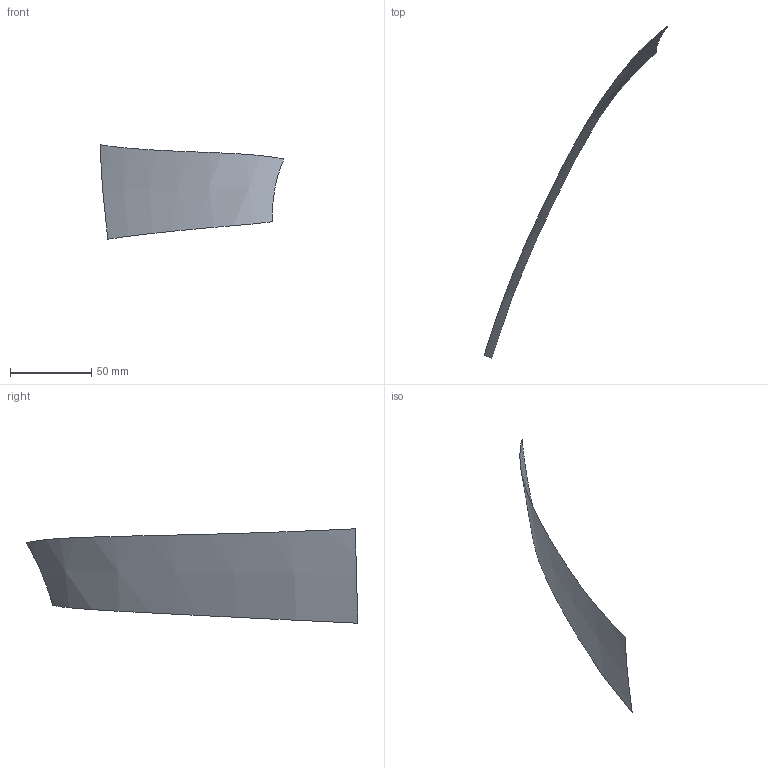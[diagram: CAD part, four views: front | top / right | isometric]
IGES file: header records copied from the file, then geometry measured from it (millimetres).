
Start section: START RECORD GO HERE
Global section: file name: s9.igs; native system: IBM CATIA IGES - CATIA SOLUTIONS V4RELEASE 1.9 REFRESH 01; preprocessor: CATIA SOLUTIONS V4RELEASE 1.9 REFRESH 01; author: cky; date: 990510.133752; units: millimetre
Bounding box: 113.01 x 203.99 x 58.02 mm (x, y, z)
Surface area: 11117.6 mm2 (no closed solid volume)
Topology: 0 solids, 0 shells, 1 faces, 56 edges, 56 vertices
Faces by surface type: bspline 1
